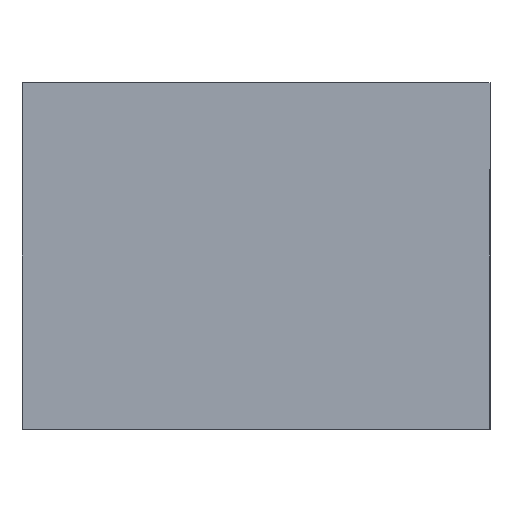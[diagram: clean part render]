
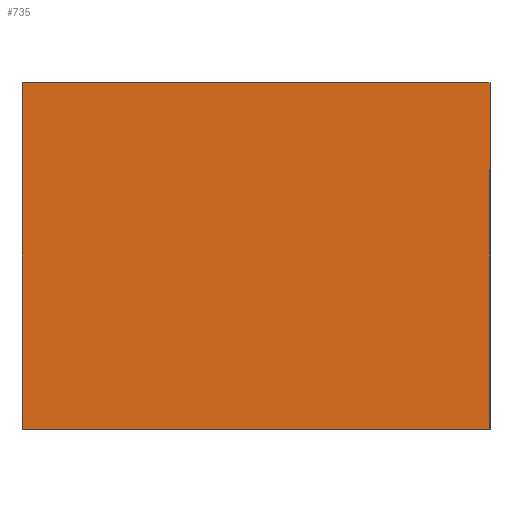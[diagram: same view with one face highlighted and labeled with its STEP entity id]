
A CAD part, front view. The second image highlights one B-rep face of the part: STEP entity #735.
In plain terms, the highlighted planar face has unit normal (0, -1, 0).
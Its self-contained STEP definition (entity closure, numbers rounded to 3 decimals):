
#87 = ORIENTED_EDGE ( 'NONE', *, *, #733, .F. ) ;
#104 = VERTEX_POINT ( 'NONE', #953 ) ;
#136 = LINE ( 'NONE', #1597, #1509 ) ;
#175 = CARTESIAN_POINT ( 'NONE',  ( -42.5, 0., -31.5 ) ) ;
#192 = LINE ( 'NONE', #1290, #616 ) ;
#195 = DIRECTION ( 'NONE',  ( -1., 0., 0. ) ) ;
#387 = CARTESIAN_POINT ( 'NONE',  ( -42.5, 0., -31.5 ) ) ;
#542 = DIRECTION ( 'NONE',  ( 0., 0., 1. ) ) ;
#571 = DIRECTION ( 'NONE',  ( 0., 0., -1. ) ) ;
#577 = CARTESIAN_POINT ( 'NONE',  ( 42.5, 0., -31.5 ) ) ;
#612 = PLANE ( 'NONE',  #1765 ) ;
#616 = VECTOR ( 'NONE', #542, 1000. ) ;
#618 = CARTESIAN_POINT ( 'NONE',  ( 0., 0., 0. ) ) ;
#647 = DIRECTION ( 'NONE',  ( 0., 1., 0. ) ) ;
#655 = DIRECTION ( 'NONE',  ( 0., 0., 1. ) ) ;
#660 = FACE_OUTER_BOUND ( 'NONE', #704, .T. ) ;
#667 = EDGE_CURVE ( 'NONE', #1368, #2315, #2325, .T. ) ;
#704 = EDGE_LOOP ( 'NONE', ( #87, #1336, #999, #1542 ) ) ;
#733 = EDGE_CURVE ( 'NONE', #1796, #1368, #1128, .T. ) ;
#735 = ADVANCED_FACE ( 'NONE', ( #660 ), #612, .F. ) ;
#874 = VECTOR ( 'NONE', #195, 1000. ) ;
#952 = CARTESIAN_POINT ( 'NONE',  ( 42.5, 0., 31.5 ) ) ;
#953 = CARTESIAN_POINT ( 'NONE',  ( -42.5, 0., 31.5 ) ) ;
#999 = ORIENTED_EDGE ( 'NONE', *, *, #1309, .F. ) ;
#1092 = CARTESIAN_POINT ( 'NONE',  ( 42.5, 0., -31.5 ) ) ;
#1128 = LINE ( 'NONE', #577, #1607 ) ;
#1290 = CARTESIAN_POINT ( 'NONE',  ( -42.5, 0., -31.5 ) ) ;
#1309 = EDGE_CURVE ( 'NONE', #2315, #104, #192, .T. ) ;
#1336 = ORIENTED_EDGE ( 'NONE', *, *, #1342, .F. ) ;
#1342 = EDGE_CURVE ( 'NONE', #104, #1796, #136, .T. ) ;
#1368 = VERTEX_POINT ( 'NONE', #1092 ) ;
#1509 = VECTOR ( 'NONE', #1657, 1000. ) ;
#1542 = ORIENTED_EDGE ( 'NONE', *, *, #667, .F. ) ;
#1597 = CARTESIAN_POINT ( 'NONE',  ( -42.5, 0., 31.5 ) ) ;
#1607 = VECTOR ( 'NONE', #571, 1000. ) ;
#1657 = DIRECTION ( 'NONE',  ( 1., 0., 0. ) ) ;
#1765 = AXIS2_PLACEMENT_3D ( 'NONE', #618, #647, #655 ) ;
#1796 = VERTEX_POINT ( 'NONE', #952 ) ;
#2315 = VERTEX_POINT ( 'NONE', #387 ) ;
#2325 = LINE ( 'NONE', #175, #874 ) ;
